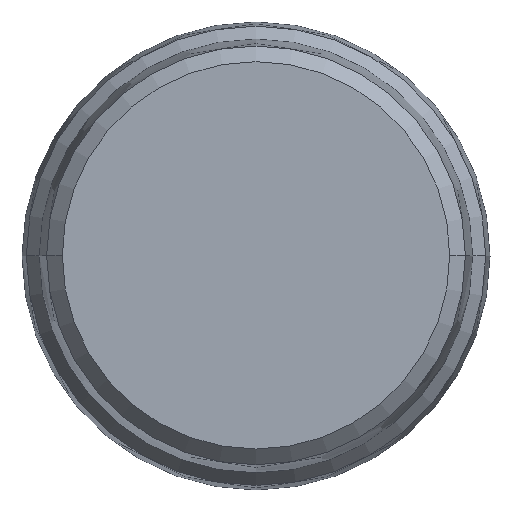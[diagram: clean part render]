
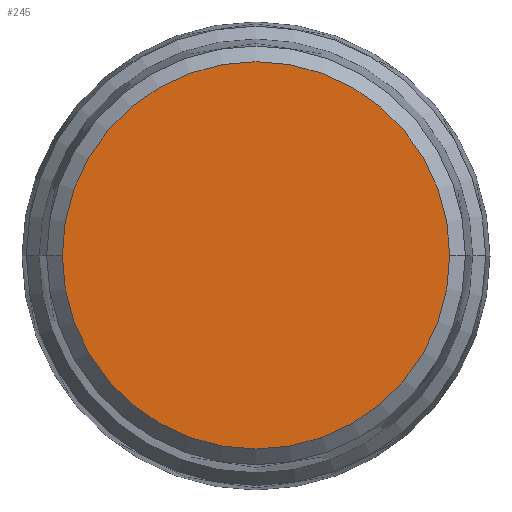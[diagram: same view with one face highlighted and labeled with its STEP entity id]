
A CAD part, top view. The second image highlights one B-rep face of the part: STEP entity #245.
In plain terms, the highlighted planar face has unit normal (0, 0, 1).
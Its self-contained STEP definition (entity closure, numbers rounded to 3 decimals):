
#245=ADVANCED_FACE('',(#590),#591,.F.);
#590=FACE_OUTER_BOUND('',#1053,.T.);
#591=PLANE('',#1054);
#1053=EDGE_LOOP('',(#1730,#1731));
#1054=AXIS2_PLACEMENT_3D('',#1732,#1733,#1734);
#1730=ORIENTED_EDGE('',*,*,#2869,.T.);
#1731=ORIENTED_EDGE('',*,*,#2722,.T.);
#1732=CARTESIAN_POINT('',(19.45,0.0,35.0));
#1733=DIRECTION('',(0.0,0.0,-1.0));
#1734=DIRECTION('',(0.0,-1.0,0.0));
#2722=EDGE_CURVE('',#3253,#3250,#3254,.T.);
#2869=EDGE_CURVE('',#3250,#3253,#3480,.T.);
#3250=VERTEX_POINT('',#4013);
#3253=VERTEX_POINT('',#4017);
#3254=CIRCLE('',#4018,19.511);
#3480=CIRCLE('',#4386,19.511);
#4013=CARTESIAN_POINT('',(-19.511,0.0,35.0));
#4017=CARTESIAN_POINT('',(19.511,0.,35.0));
#4018=AXIS2_PLACEMENT_3D('',#5018,#5019,#5020);
#4386=AXIS2_PLACEMENT_3D('',#5223,#5224,#5225);
#5018=CARTESIAN_POINT('',(0.0,0.0,35.0));
#5019=DIRECTION('',(0.0,0.0,1.0));
#5020=DIRECTION('',(-1.0,0.0,0.0));
#5223=CARTESIAN_POINT('',(0.0,0.0,35.0));
#5224=DIRECTION('',(0.0,0.0,1.0));
#5225=DIRECTION('',(-1.0,0.0,0.0));
